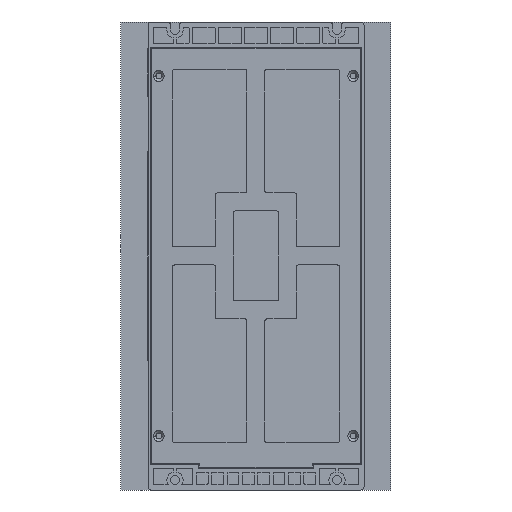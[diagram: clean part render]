
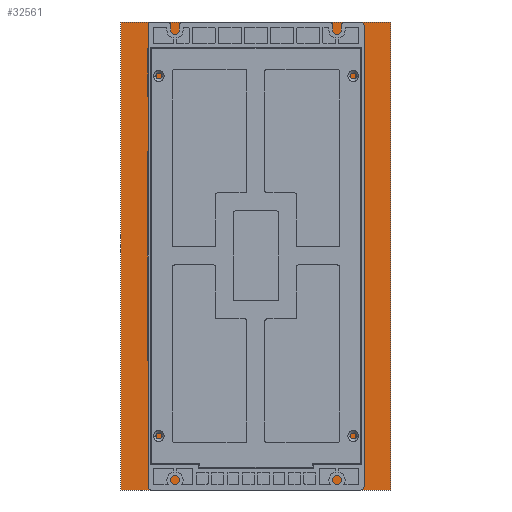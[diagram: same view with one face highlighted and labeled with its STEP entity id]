
A CAD part, front view. The second image highlights one B-rep face of the part: STEP entity #32561.
In plain terms, the highlighted planar face has unit normal (0, 1, 0).
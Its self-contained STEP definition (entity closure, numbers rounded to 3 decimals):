
#32522=DIRECTION('',(1.,0.,0.));
#32523=VECTOR('',#32522,150.);
#32524=CARTESIAN_POINT('',(-75.,130.,-130.));
#32525=LINE('',#32524,#32523);
#32526=DIRECTION('',(0.,0.,1.));
#32527=VECTOR('',#32526,260.);
#32528=CARTESIAN_POINT('',(75.,130.,-130.));
#32529=LINE('',#32528,#32527);
#32530=DIRECTION('',(-1.,0.,0.));
#32531=VECTOR('',#32530,150.);
#32532=CARTESIAN_POINT('',(75.,130.,130.));
#32533=LINE('',#32532,#32531);
#32534=DIRECTION('',(0.,0.,-1.));
#32535=VECTOR('',#32534,260.);
#32536=CARTESIAN_POINT('',(-75.,130.,130.));
#32537=LINE('',#32536,#32535);
#32538=CARTESIAN_POINT('',(-75.,130.,-130.));
#32539=CARTESIAN_POINT('',(75.,130.,-130.));
#32540=VERTEX_POINT('',#32538);
#32541=VERTEX_POINT('',#32539);
#32542=CARTESIAN_POINT('',(75.,130.,130.));
#32543=VERTEX_POINT('',#32542);
#32544=CARTESIAN_POINT('',(-75.,130.,130.));
#32545=VERTEX_POINT('',#32544);
#32546=CARTESIAN_POINT('',(75.,130.,-130.));
#32547=DIRECTION('',(0.,1.,0.));
#32548=DIRECTION('',(-1.,0.,0.));
#32549=AXIS2_PLACEMENT_3D('',#32546,#32547,#32548);
#32550=PLANE('',#32549);
#32552=ORIENTED_EDGE('',*,*,#32551,.T.);
#32554=ORIENTED_EDGE('',*,*,#32553,.T.);
#32556=ORIENTED_EDGE('',*,*,#32555,.T.);
#32558=ORIENTED_EDGE('',*,*,#32557,.T.);
#32559=EDGE_LOOP('',(#32552,#32554,#32556,#32558));
#32560=FACE_OUTER_BOUND('',#32559,.F.);
#32551=EDGE_CURVE('',#32540,#32541,#32525,.T.);
#32553=EDGE_CURVE('',#32541,#32543,#32529,.T.);
#32555=EDGE_CURVE('',#32543,#32545,#32533,.T.);
#32557=EDGE_CURVE('',#32545,#32540,#32537,.T.);
#32561=ADVANCED_FACE('',(#32560),#32550,.T.);
